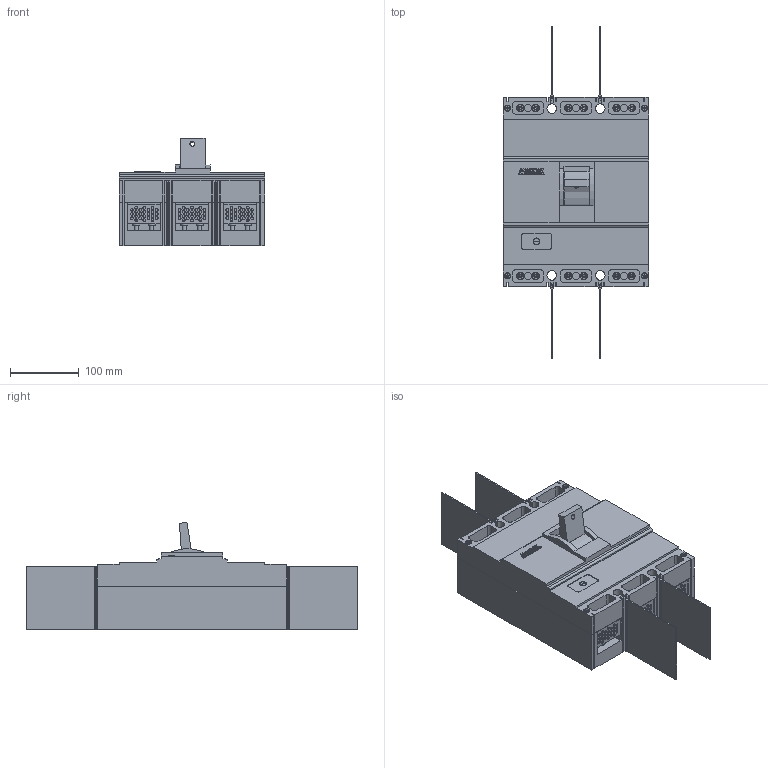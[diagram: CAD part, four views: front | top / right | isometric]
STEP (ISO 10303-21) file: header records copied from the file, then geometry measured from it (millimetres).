
FILE_DESCRIPTION(('FreeCAD Model'),'2;1');
FILE_NAME('Open CASCADE Shape Model','2022-08-23T09:59:20',( 'Engenharia Metaltex'),('Metaltex'), 'Open CASCADE STEP processor 7.5','FreeCAD','Unknown');
FILE_SCHEMA(('AUTOMOTIVE_DESIGN { 1 0 10303 214 1 1 1 1 }'));
Length unit declared in the file: millimetre
Products named in the file (21): DCM630S e DCM800S; Body065; Body066; Knob002; G011; PM010; Body026; Body027; Body028; Logo Pronto007; Body030; Body031; Body032; Body033; Body034; C006; C007; C005; C008; P014; Cut004
Assembly tree (31 placements, depth 2):
  DCM630S e DCM800S
    Body065
    Body066
    Knob002
    G011
    PM010
    Body026
    Body027
    Body028
    Logo Pronto007
    Body030
    Body031
    Body032
    Body033
    Body034
    C006
    C007
    C005
    C008
    P014  x12
    Cut004
Bounding box: 212 x 483.56 x 156.12 mm (x, y, z)
Volume: 5411276.1 mm3; surface area: 527917.6 mm2
Topology: 38 solids, 38 shells, 1335 faces, 3251 edges, 2018 vertices
Faces by surface type: plane 652, cylinder 355, cone 208, bspline 96, torus 24
Full cylindrical faces by diameter (mm): 4 x144, 7 x1, 7.3 x12, 9 x5, 10 x1, 11 x6, 14 x4
Entity records: 67225 total; most frequent: CARTESIAN_POINT 14736, DIRECTION 8400, ORIENTED_EDGE 5134, PCURVE 5134, DEFINITIONAL_REPRESENTATION 5134, LINE 5023, VECTOR 5023, EDGE_CURVE 2567
